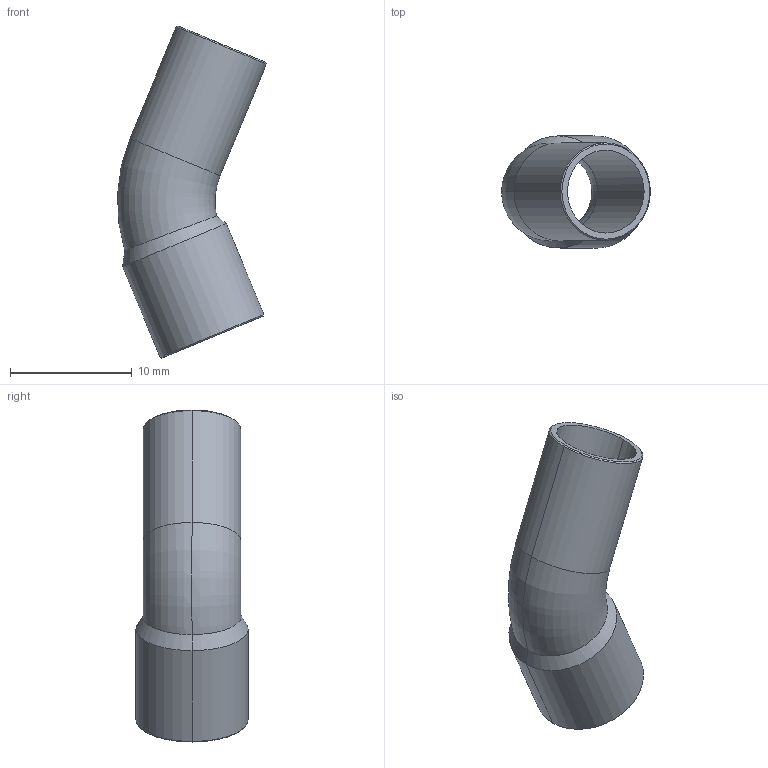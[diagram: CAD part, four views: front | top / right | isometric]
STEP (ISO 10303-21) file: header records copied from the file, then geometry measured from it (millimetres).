
FILE_DESCRIPTION((''),'2;1');
FILE_NAME('P:\Bouwmaten\z-maattekeningen 3D\5000\5040\15040a8.stp','2005-10-05T10:57:12',('Kris'),(''),'Autodesk Inventor 8','Autodesk Inventor 8','');
FILE_SCHEMA(('AUTOMOTIVE_DESIGN { 1 0 10303 214 1 1 1 1 }'));
Length unit declared in the file: millimetre
Products named in the file (1): 15040a8
Bounding box: 12.21 x 9.2 x 27.24 mm (x, y, z)
Volume: 378.3 mm3; surface area: 1287.9 mm2
Topology: 1 solids, 1 shells, 24 faces, 50 edges, 28 vertices
Faces by surface type: cone 10, cylinder 8, torus 4, plane 2
Entity records: 729 total; most frequent: CARTESIAN_POINT 179, DIRECTION 124, ORIENTED_EDGE 100, AXIS2_PLACEMENT_3D 53, EDGE_CURVE 50, VERTEX_POINT 28, CIRCLE 28, EDGE_LOOP 26
